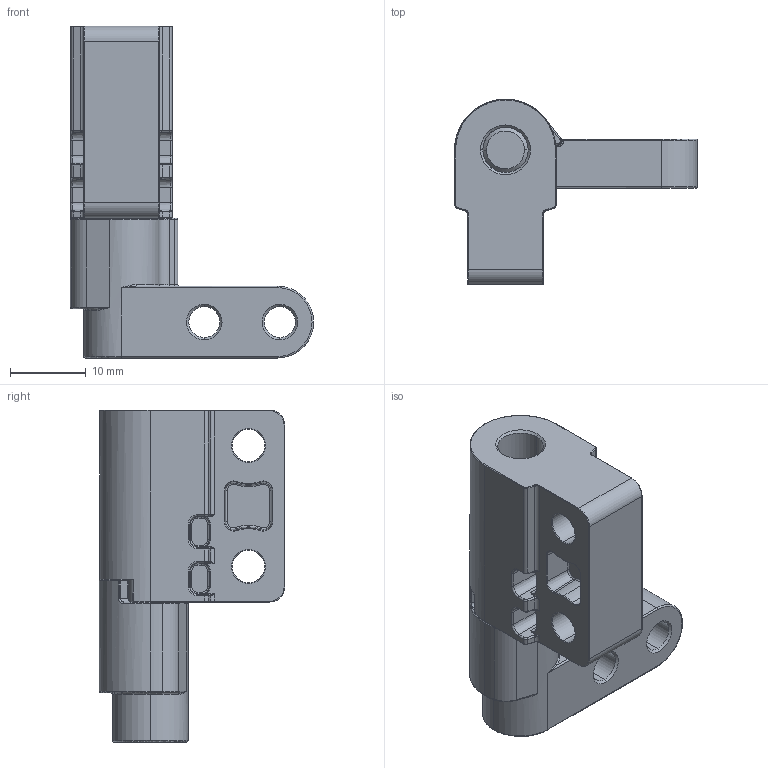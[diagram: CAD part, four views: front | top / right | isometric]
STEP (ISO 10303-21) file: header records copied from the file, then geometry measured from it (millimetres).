
FILE_DESCRIPTION (( 'STEP AP203' ), '1' );
FILE_NAME ('CL239-4-Z.STEP', '2017-07-28T06:19:08', ( 'SkyUser' ), ( 'China' ), 'SwSTEP 2.0', 'SolidWorks 2014', '' );
FILE_SCHEMA (( 'CONFIG_CONTROL_DESIGN' ));
Length unit declared in the file: millimetre
Products named in the file (4): CL239-4-Z; 隅蝓蟈酘; 雄蝓蟈酘; 种赽
Assembly tree (3 placements, depth 2):
  CL239-4-Z
    隅蝓蟈酘
    雄蝓蟈酘
    种赽
Bounding box: 32.15 x 24.55 x 43.9 mm (x, y, z)
Volume: 8140.9 mm3; surface area: 6154.3 mm2
Topology: 3 solids, 3 shells, 628 faces, 1532 edges, 893 vertices
Faces by surface type: plane 221, cylinder 187, torus 112, cone 54, bspline 49, sphere 5
Entity records: 19443 total; most frequent: CARTESIAN_POINT 4542, DIRECTION 3198, ORIENTED_EDGE 3012, EDGE_CURVE 1506, AXIS2_PLACEMENT_3D 1279, VERTEX_POINT 891, CIRCLE 694, EDGE_LOOP 647
